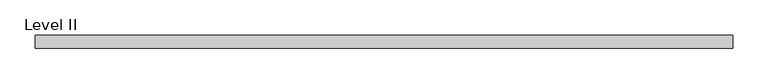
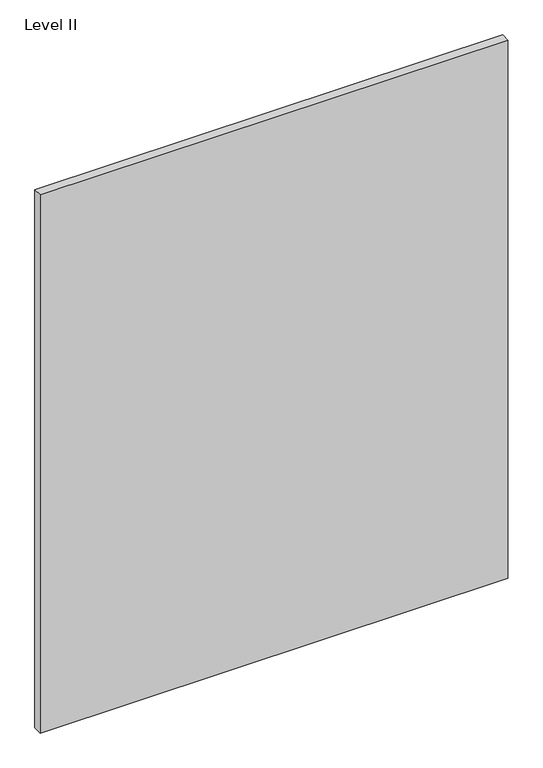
"""IFC4 building model written with IfcOpenShell, lengths in millimetres: proxy geometry, Panel-Fascia-Teknion-Altos-Standard : Level II."""

from ifc_helpers import new_model, si_unit, frame, origin, place, context, project, spatial, polyline, outline, extrude, source, transform, mapped, element, save


def level_ii_fe5f90b5(model_context):
    return source(origin(), model_context, "Body", "SweptSolid", [
        extrude(outline(polyline([(498.4198344, -9.525), (-498.4198344, -9.525), (-498.4198344, 9.525), (498.4198344, 9.525), (498.4198344, -9.525)])), frame((0.0, 0.0, 3.175), z_axis=(0.0, 0.0, 1.0), x_axis=(1.0, 0.0, 0.0)), (0.0, 0.0, 1.0), 1212.85),
    ])


if __name__ == "__main__":
    model = new_model("IFC4")
    model_context = context("Model", 3, world=origin())
    ifc_project = project(units=[si_unit("LENGTHUNIT", "METRE", prefix="MILLI")], contexts=[model_context])
    site = spatial("IfcSite", under=ifc_project)
    building = spatial("IfcBuilding", under=site)
    placement = place(None, origin())
    level_ii_shape = level_ii_fe5f90b5(model_context)
    element("IfcBuildingElementProxy", 1, Name="Panel-Fascia-Teknion-Altos-Standard : Level II", ObjectType="Panel-Fascia-Teknion-Altos-Standard : Level II", at=placement, inside=building, context=model_context, shape_type="MappedRepresentation", body=[
        mapped(level_ii_shape, transform((0.0, 0.0, 0.0), x_axis=(1.0, 0.0, 0.0), y_axis=(0.0, 1.0, 0.0), z_axis=(0.0, 0.0, 1.0))),
    ])
    save(model, "model.ifc")
